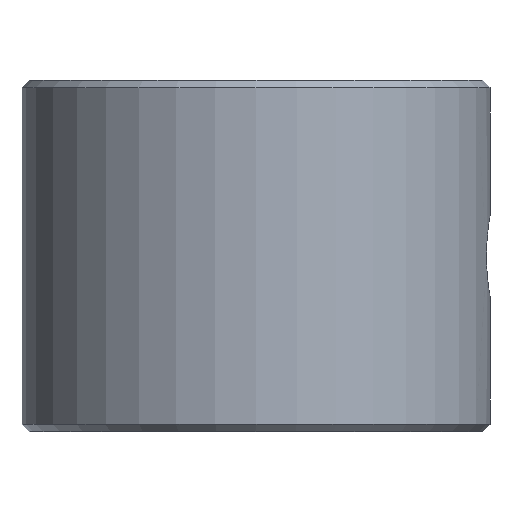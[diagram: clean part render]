
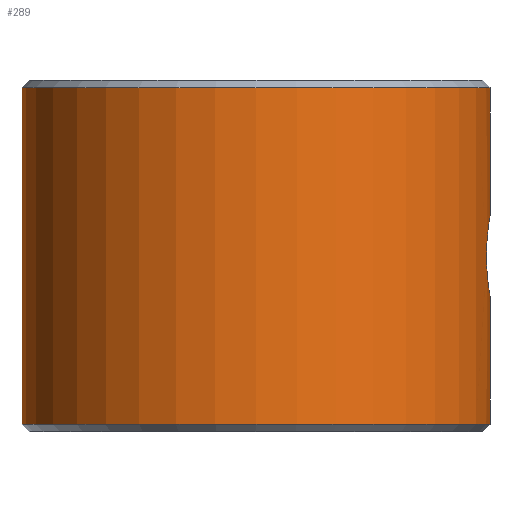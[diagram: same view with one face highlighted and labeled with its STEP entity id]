
A CAD part, front view. The second image highlights one B-rep face of the part: STEP entity #289.
In plain terms, the highlighted cylindrical face has radius 50.8 mm (diameter 101.6 mm), a partial arc.
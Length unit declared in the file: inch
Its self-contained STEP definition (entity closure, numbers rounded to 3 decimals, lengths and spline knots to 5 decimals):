
#7 = DIRECTION ( 'NONE',  ( 1., 0., 0. ) ) ;
#20 = ORIENTED_EDGE ( 'NONE', *, *, #629, .T. ) ;
#40 = CARTESIAN_POINT ( 'NONE',  ( 1.97214, -0.33271, 1.58928 ) ) ;
#45 = CARTESIAN_POINT ( 'NONE',  ( 1.98322, -0.25907, 1.72707 ) ) ;
#46 = CARTESIAN_POINT ( 'NONE',  ( 2., 0., 1.84375 ) ) ;
#48 = CARTESIAN_POINT ( 'NONE',  ( 1.99634, -0.12138, 1.1782 ) ) ;
#50 = CARTESIAN_POINT ( 'NONE',  ( 1.99812, -0.08942, 1.83268 ) ) ;
#58 = CARTESIAN_POINT ( 'NONE',  ( 2., 0., 0.0625 ) ) ;
#63 = CARTESIAN_POINT ( 'NONE',  ( 2., 0., 1.84375 ) ) ;
#72 = ORIENTED_EDGE ( 'NONE', *, *, #465, .F. ) ;
#73 = DIRECTION ( 'NONE',  ( 0., 0., 1. ) ) ;
#82 = CARTESIAN_POINT ( 'NONE',  ( -2., 0., 2.9375 ) ) ;
#99 = CARTESIAN_POINT ( 'NONE',  ( 1.97858, -0.29198, 1.68177 ) ) ;
#104 = CARTESIAN_POINT ( 'NONE',  ( 2., 0., 3. ) ) ;
#106 = CARTESIAN_POINT ( 'NONE',  ( 1.97609, -0.30838, 1.65229 ) ) ;
#107 = CYLINDRICAL_SURFACE ( 'NONE', #219, 2. ) ;
#109 = CARTESIAN_POINT ( 'NONE',  ( 1.99697, -0.11065, 1.17435 ) ) ;
#136 = ORIENTED_EDGE ( 'NONE', *, *, #414, .T. ) ;
#143 = DIRECTION ( 'NONE',  ( 0., 0., -1. ) ) ;
#148 = EDGE_LOOP ( 'NONE', ( #72, #181, #136, #20, #657, #451 ) ) ;
#157 = CARTESIAN_POINT ( 'NONE',  ( 1.9985, -0.07812, 1.16506 ) ) ;
#160 = CARTESIAN_POINT ( 'NONE',  ( 1.97457, -0.31802, 1.36807 ) ) ;
#163 = CARTESIAN_POINT ( 'NONE',  ( 1.97024, -0.34376, 1.52234 ) ) ;
#165 = CARTESIAN_POINT ( 'NONE',  ( 1.99174, -0.18185, 1.79192 ) ) ;
#181 = ORIENTED_EDGE ( 'NONE', *, *, #381, .T. ) ;
#210 = CARTESIAN_POINT ( 'NONE',  ( 1.9813, -0.27316, 1.2901 ) ) ;
#213 = CARTESIAN_POINT ( 'NONE',  ( 1.99703, -0.11085, 1.82617 ) ) ;
#217 = CARTESIAN_POINT ( 'NONE',  ( 1.97223, -0.33214, 1.41072 ) ) ;
#219 = AXIS2_PLACEMENT_3D ( 'NONE', #266, #499, #739 ) ;
#223 = CARTESIAN_POINT ( 'NONE',  ( 1.99428, -0.15259, 1.19115 ) ) ;
#226 = CARTESIAN_POINT ( 'NONE',  ( 1.99991, -0.02248, 1.8432 ) ) ;
#261 = DIRECTION ( 'NONE',  ( 0., 0., -1. ) ) ;
#264 = CARTESIAN_POINT ( 'NONE',  ( 1.98323, -0.25894, 1.27282 ) ) ;
#266 = CARTESIAN_POINT ( 'NONE',  ( 0., 0., 3. ) ) ;
#269 = CARTESIAN_POINT ( 'NONE',  ( 1.9926, -0.17223, 1.7977 ) ) ;
#272 = LINE ( 'NONE', #104, #581 ) ;
#274 = CARTESIAN_POINT ( 'NONE',  ( 1.99924, -0.05631, 1.83929 ) ) ;
#276 = AXIS2_PLACEMENT_3D ( 'NONE', #599, #662, #487 ) ;
#289 = ADVANCED_FACE ( 'NONE', ( #626 ), #107, .T. ) ;
#307 = VERTEX_POINT ( 'NONE', #46 ) ;
#321 = CARTESIAN_POINT ( 'NONE',  ( 1.97062, -0.34155, 1.45507 ) ) ;
#329 = VECTOR ( 'NONE', #143, 39.37008 ) ;
#333 = CARTESIAN_POINT ( 'NONE',  ( 1.98713, -0.22707, 1.75907 ) ) ;
#336 = CARTESIAN_POINT ( 'NONE',  ( 1.97024, -0.34374, 1.4774 ) ) ;
#369 = CARTESIAN_POINT ( 'NONE',  ( -2., 0., 3. ) ) ;
#379 = CARTESIAN_POINT ( 'NONE',  ( 1.97771, -0.29784, 1.32801 ) ) ;
#381 = EDGE_CURVE ( 'NONE', #596, #382, #569, .T. ) ;
#382 = VERTEX_POINT ( 'NONE', #82 ) ;
#383 = CARTESIAN_POINT ( 'NONE',  ( 1.97532, -0.31326, 1.64199 ) ) ;
#388 = AXIS2_PLACEMENT_3D ( 'NONE', #518, #73, #7 ) ;
#392 = CARTESIAN_POINT ( 'NONE',  ( 1.98996, -0.20032, 1.22043 ) ) ;
#414 = EDGE_CURVE ( 'NONE', #382, #527, #612, .T. ) ;
#440 = CARTESIAN_POINT ( 'NONE',  ( 2., 0., 1.15625 ) ) ;
#443 = CARTESIAN_POINT ( 'NONE',  ( 1.98128, -0.27332, 1.70966 ) ) ;
#446 = CARTESIAN_POINT ( 'NONE',  ( 1.97608, -0.30844, 1.34782 ) ) ;
#451 = ORIENTED_EDGE ( 'NONE', *, *, #591, .T. ) ;
#452 = CARTESIAN_POINT ( 'NONE',  ( 1.99265, -0.17232, 1.20172 ) ) ;
#455 = CARTESIAN_POINT ( 'NONE',  ( 2., 0., 1.15625 ) ) ;
#465 = EDGE_CURVE ( 'NONE', #596, #307, #490, .T. ) ;
#487 = DIRECTION ( 'NONE',  ( 1., 0., 0. ) ) ;
#490 = LINE ( 'NONE', #720, #544 ) ;
#498 = CARTESIAN_POINT ( 'NONE',  ( 1.97324, -0.32621, 1.61073 ) ) ;
#499 = DIRECTION ( 'NONE',  ( 0., 0., -1. ) ) ;
#501 = CARTESIAN_POINT ( 'NONE',  ( 1.99422, -0.15232, 1.80836 ) ) ;
#504 = CARTESIAN_POINT ( 'NONE',  ( 1.98902, -0.20943, 1.22718 ) ) ;
#507 = CARTESIAN_POINT ( 'NONE',  ( 1.99805, -0.08903, 1.16779 ) ) ;
#518 = CARTESIAN_POINT ( 'NONE',  ( 0., 0., 0.0625 ) ) ;
#523 = B_SPLINE_CURVE_WITH_KNOTS ( 'NONE', 3,
 ( #440, #741, #670, #157, #507, #109, #48, #223, #452, #392, #504, #685, #627, #264, #210, #674, #379, #446, #160, #679, #217, #616, #321, #336, #163, #554, #40, #498, #383, #106, #619, #99, #443, #45, #333, #560, #165, #269, #501, #732, #213, #50, #274, #738, #226, #584, #63 ),
 .UNSPECIFIED., .F., .F.,
 ( 4, 2, 2, 2, 2, 2, 2, 2, 2, 1, 2, 2, 2, 2, 2, 2, 2, 2, 2, 2, 2, 2, 2, 4 ),
 ( 0., 0.00171, 0.00256, 0.00342, 0.00513, 0.00598, 0.00684, 0.00855, 0.0094, 0.01026, 0.01111, 0.01197, 0.01367, 0.01538, 0.01709, 0.01795, 0.0188, 0.02051, 0.02222, 0.02308, 0.02393, 0.02564, 0.02649, 0.02735 ),
 .UNSPECIFIED. ) ;
#527 = VERTEX_POINT ( 'NONE', #728 ) ;
#544 = VECTOR ( 'NONE', #261, 39.37008 ) ;
#554 = CARTESIAN_POINT ( 'NONE',  ( 1.97063, -0.34151, 1.54516 ) ) ;
#560 = CARTESIAN_POINT ( 'NONE',  ( 1.98906, -0.20975, 1.77326 ) ) ;
#563 = DIRECTION ( 'NONE',  ( 0., 0., -1. ) ) ;
#569 = CIRCLE ( 'NONE', #276, 2. ) ;
#581 = VECTOR ( 'NONE', #563, 39.37008 ) ;
#584 = CARTESIAN_POINT ( 'NONE',  ( 2., -0.01123, 1.84375 ) ) ;
#586 = EDGE_CURVE ( 'NONE', #700, #676, #272, .T. ) ;
#589 = CARTESIAN_POINT ( 'NONE',  ( 2., 0., 2.9375 ) ) ;
#591 = EDGE_CURVE ( 'NONE', #700, #307, #523, .T. ) ;
#596 = VERTEX_POINT ( 'NONE', #589 ) ;
#599 = CARTESIAN_POINT ( 'NONE',  ( 0., 0., 2.9375 ) ) ;
#612 = LINE ( 'NONE', #369, #329 ) ;
#616 = CARTESIAN_POINT ( 'NONE',  ( 1.97176, -0.33492, 1.42177 ) ) ;
#619 = CARTESIAN_POINT ( 'NONE',  ( 1.97772, -0.29775, 1.67216 ) ) ;
#626 = FACE_OUTER_BOUND ( 'NONE', #148, .T. ) ;
#627 = CARTESIAN_POINT ( 'NONE',  ( 1.98614, -0.23521, 1.24907 ) ) ;
#629 = EDGE_CURVE ( 'NONE', #527, #676, #689, .T. ) ;
#657 = ORIENTED_EDGE ( 'NONE', *, *, #586, .F. ) ;
#662 = DIRECTION ( 'NONE',  ( 0., 0., -1. ) ) ;
#670 = CARTESIAN_POINT ( 'NONE',  ( 1.99961, -0.04513, 1.15849 ) ) ;
#674 = CARTESIAN_POINT ( 'NONE',  ( 1.97858, -0.292, 1.31827 ) ) ;
#676 = VERTEX_POINT ( 'NONE', #58 ) ;
#679 = CARTESIAN_POINT ( 'NONE',  ( 1.97332, -0.32559, 1.38917 ) ) ;
#685 = CARTESIAN_POINT ( 'NONE',  ( 1.98711, -0.2269, 1.24153 ) ) ;
#689 = CIRCLE ( 'NONE', #388, 2. ) ;
#700 = VERTEX_POINT ( 'NONE', #455 ) ;
#720 = CARTESIAN_POINT ( 'NONE',  ( 2., 0., 3. ) ) ;
#728 = CARTESIAN_POINT ( 'NONE',  ( -2., 0., 0.0625 ) ) ;
#732 = CARTESIAN_POINT ( 'NONE',  ( 1.99498, -0.14203, 1.81324 ) ) ;
#738 = CARTESIAN_POINT ( 'NONE',  ( 1.99952, -0.04505, 1.84097 ) ) ;
#739 = DIRECTION ( 'NONE',  ( -1., 0., 0. ) ) ;
#741 = CARTESIAN_POINT ( 'NONE',  ( 2., -0.02276, 1.15625 ) ) ;
